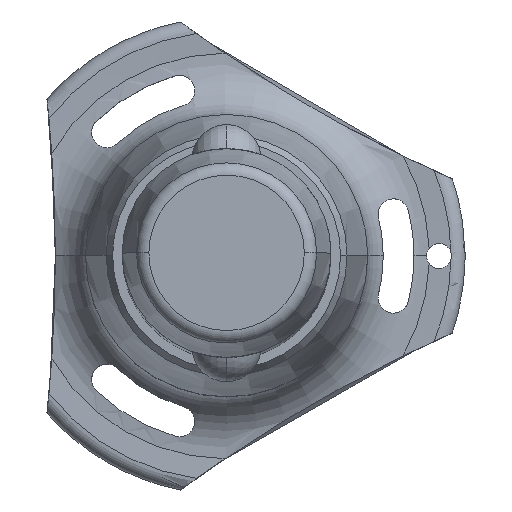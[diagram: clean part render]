
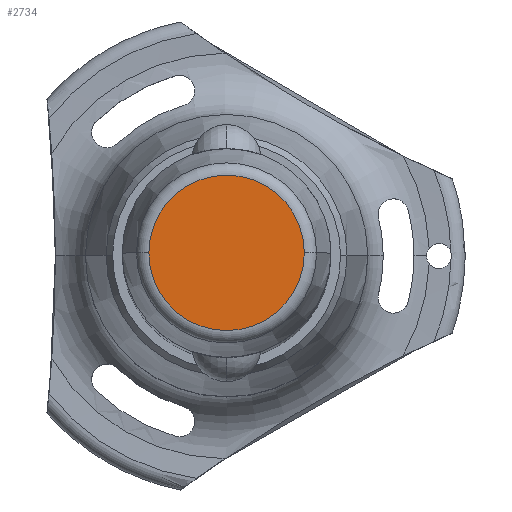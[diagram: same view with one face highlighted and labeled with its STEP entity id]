
A CAD part, top view. The second image highlights one B-rep face of the part: STEP entity #2734.
In plain terms, the highlighted planar face has unit normal (0, 0, 1).
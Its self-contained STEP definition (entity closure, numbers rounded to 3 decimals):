
#46 = CARTESIAN_POINT ( 'NONE',  ( 9.302, 0., 22. ) ) ;
#48 = DIRECTION ( 'NONE',  ( 0., 0., 1. ) ) ;
#78 = EDGE_LOOP ( 'NONE', ( #2796, #2575 ) ) ;
#251 = EDGE_CURVE ( 'NONE', #1915, #2890, #1594, .T. ) ;
#316 = DIRECTION ( 'NONE',  ( 0., 0., 1. ) ) ;
#504 = CIRCLE ( 'NONE', #738, 9.302 ) ;
#738 = AXIS2_PLACEMENT_3D ( 'NONE', #1810, #48, #1614 ) ;
#760 = PLANE ( 'NONE',  #1451 ) ;
#786 = CARTESIAN_POINT ( 'NONE',  ( -9.302, 0., 22. ) ) ;
#891 = DIRECTION ( 'NONE',  ( 0., 0., 1. ) ) ;
#918 = EDGE_CURVE ( 'NONE', #2890, #1915, #504, .T. ) ;
#1391 = DIRECTION ( 'NONE',  ( 1., 0., 0. ) ) ;
#1399 = FACE_OUTER_BOUND ( 'NONE', #78, .T. ) ;
#1451 = AXIS2_PLACEMENT_3D ( 'NONE', #1664, #316, #2309 ) ;
#1594 = CIRCLE ( 'NONE', #2308, 9.302 ) ;
#1614 = DIRECTION ( 'NONE',  ( 1., 0., 0. ) ) ;
#1664 = CARTESIAN_POINT ( 'NONE',  ( 0., 0., 22. ) ) ;
#1810 = CARTESIAN_POINT ( 'NONE',  ( 0., 0., 22. ) ) ;
#1915 = VERTEX_POINT ( 'NONE', #46 ) ;
#2308 = AXIS2_PLACEMENT_3D ( 'NONE', #2525, #891, #1391 ) ;
#2309 = DIRECTION ( 'NONE',  ( 1., 0., 0. ) ) ;
#2525 = CARTESIAN_POINT ( 'NONE',  ( 0., 0., 22. ) ) ;
#2575 = ORIENTED_EDGE ( 'NONE', *, *, #918, .T. ) ;
#2734 = ADVANCED_FACE ( 'NONE', ( #1399 ), #760, .T. ) ;
#2796 = ORIENTED_EDGE ( 'NONE', *, *, #251, .T. ) ;
#2890 = VERTEX_POINT ( 'NONE', #786 ) ;
